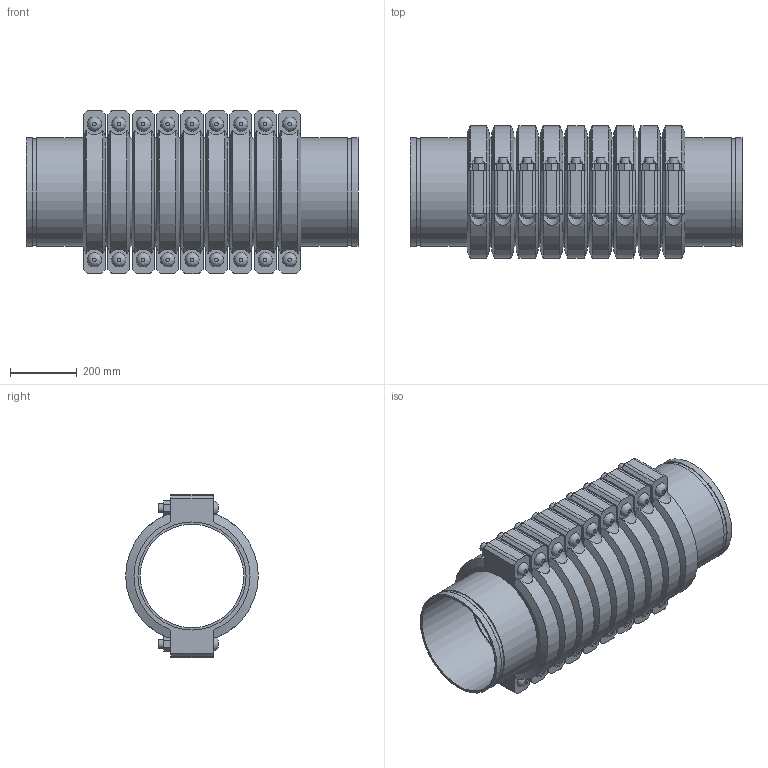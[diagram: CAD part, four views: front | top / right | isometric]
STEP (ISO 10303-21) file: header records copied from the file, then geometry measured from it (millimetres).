
FILE_DESCRIPTION(/* description */ ('VIC SS EXPANSION JOINT 9 COUPLINGS NEUTRAL STYLE 155P (OGS) (POTABLE WATER) ','CAx-IF Rec.Pracs.---Representation and Presentation of Product Manufacturing Information (PMI)---4.0---2014-10-13'),/* implementation_level */ '2;1');
FILE_NAME(/* name */ 'C:\Users\kkamble\AppData\Roaming\Autodesk\ApplicationPlugins\Victaulic.Temp\A561\Victaulic_SS_Expansion Joint_Neutral_9 Couplings_Style 155P (OGS)-Potable Water_9 Coup_Neut_12 (300).stp',/* time_stamp */ '2021-07-16T16:40:21+05:00',/* author */ ('kkamble'),/* organization */ ('Victaulic'),/* preprocessor_version */ 'ST-DEVELOPER v17.2',/* originating_system */ 'Autodesk Inventor 2019',/* authorisation */ '');
FILE_SCHEMA (('AP242_MANAGED_MODEL_BASED_3D_ENGINEERING_MIM_LF { 1 0 10303 442 1 1 4 }'));
Length unit declared in the file: inch
Products named in the file (4): 155P-12.0; Nipple-12.0; Nipple-12.0_1; 077-12.0
Assembly tree (19 placements, depth 2):
  155P-12.0
    Nipple-12.0  x2
    Nipple-12.0_1  x8
    077-12.0  x9
Bounding box: 993.9 x 397 x 488.95 mm (x, y, z)
Volume: 36809001.3 mm3; surface area: 5050145.4 mm2
Topology: 19 solids, 37 shells, 669 faces, 1605 edges, 1122 vertices
Faces by surface type: plane 384, cylinder 231, cone 36, bspline 18
Full cylindrical faces by diameter (mm): 25.4 x36, 27.432 x18, 309.677 x10, 314.96 x9, 318.287 x20, 323.85 x48
Entity records: 3121 total; most frequent: CARTESIAN_POINT 667, DIRECTION 493, ORIENTED_EDGE 410, EDGE_CURVE 205, AXIS2_PLACEMENT_3D 202, VERTEX_POINT 146, EDGE_LOOP 111, CIRCLE 96
